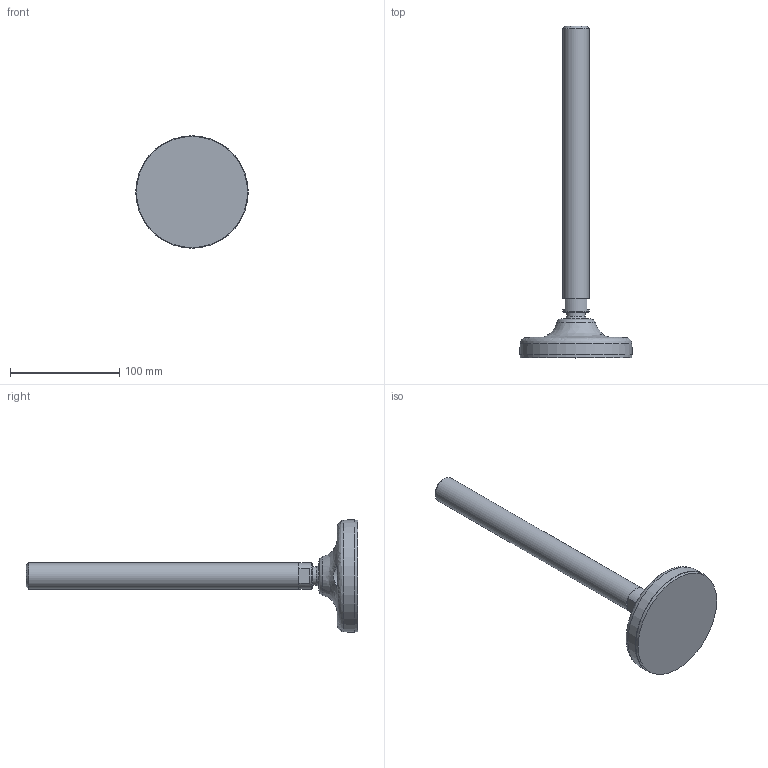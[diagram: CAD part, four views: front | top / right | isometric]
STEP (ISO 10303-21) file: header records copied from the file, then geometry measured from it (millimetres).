
FILE_DESCRIPTION(('STEP AP203'),'2;1');
FILE_NAME('10153.stp','2014-12-18T16:42:32',(''),(''),'2008.1.107','THINKDESIGN','');
FILE_SCHEMA(('CONFIG_CONTROL_DESIGN'));
Length unit declared in the file: millimetre
Bounding box: 103.02 x 304.13 x 103.02 mm (x, y, z)
Volume: 296438.4 mm3; surface area: 60924.3 mm2
Topology: 4 solids, 4 shells, 30 faces, 72 edges, 51 vertices
Faces by surface type: plane 17, bspline 7, cylinder 6
Full cylindrical faces by diameter (mm): 16.642 x1, 24 x2, 102 x1
Entity records: 1530 total; most frequent: CARTESIAN_POINT 717, DIRECTION 162, ORIENTED_EDGE 144, AXIS2_PLACEMENT_3D 74, EDGE_CURVE 72, VERTEX_POINT 51, CIRCLE 51, EDGE_LOOP 31
